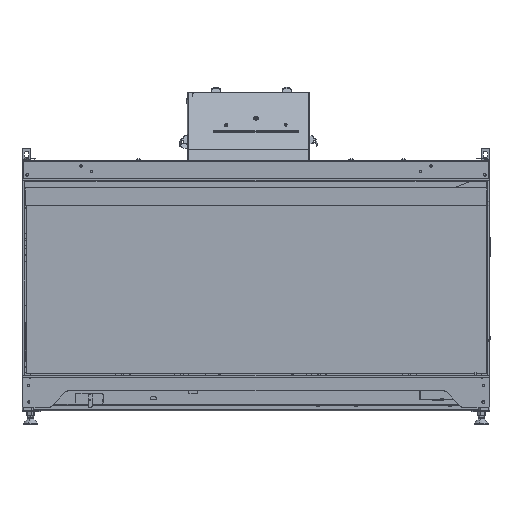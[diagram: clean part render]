
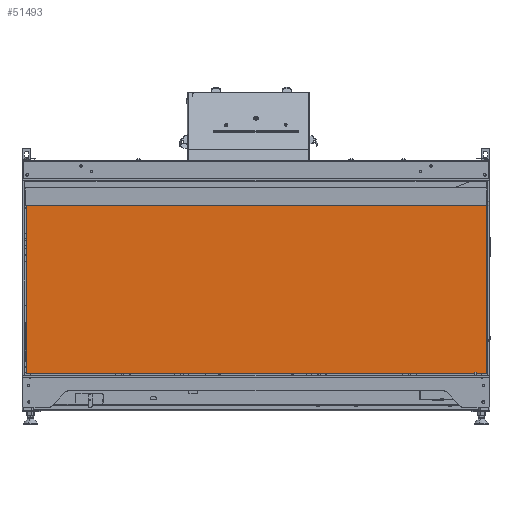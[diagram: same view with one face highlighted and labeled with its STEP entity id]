
A CAD part, top view. The second image highlights one B-rep face of the part: STEP entity #51493.
In plain terms, the highlighted planar face has unit normal (0, 0, 1).
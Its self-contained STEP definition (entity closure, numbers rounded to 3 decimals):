
#875 = FACE_OUTER_BOUND ( 'NONE', #4675, .T. ) ;
#1250 = LINE ( 'NONE', #37442, #45406 ) ;
#2161 = ORIENTED_EDGE ( 'NONE', *, *, #33126, .T. ) ;
#2695 = DIRECTION ( 'NONE',  ( 0., -1., 0. ) ) ;
#4675 = EDGE_LOOP ( 'NONE', ( #2161, #60852, #45241, #39831 ) ) ;
#8670 = DIRECTION ( 'NONE',  ( 0., -1., 0. ) ) ;
#9136 = VERTEX_POINT ( 'NONE', #13150 ) ;
#10221 = CARTESIAN_POINT ( 'NONE',  ( 128.813, 523.239, 1815.195 ) ) ;
#10913 = VERTEX_POINT ( 'NONE', #15274 ) ;
#12344 = CARTESIAN_POINT ( 'NONE',  ( 625.813, 523.239, 1815.195 ) ) ;
#13150 = CARTESIAN_POINT ( 'NONE',  ( 625.813, 1401.239, 1815.195 ) ) ;
#13325 = CARTESIAN_POINT ( 'NONE',  ( -368.187, 523.239, 1815.195 ) ) ;
#14159 = EDGE_CURVE ( 'NONE', #9136, #10913, #54155, .T. ) ;
#15274 = CARTESIAN_POINT ( 'NONE',  ( 625.813, 1031.239, 1815.195 ) ) ;
#16500 = DIRECTION ( 'NONE',  ( 1., 0., 0. ) ) ;
#17185 = DIRECTION ( 'NONE',  ( -1., 0., 0. ) ) ;
#17639 = VECTOR ( 'NONE', #48622, 1000. ) ;
#23057 = CARTESIAN_POINT ( 'NONE',  ( 128.813, 1031.239, 1815.195 ) ) ;
#33126 = EDGE_CURVE ( 'NONE', #40644, #53616, #63474, .T. ) ;
#36323 = AXIS2_PLACEMENT_3D ( 'NONE', #10221, #56359, #16500 ) ;
#37442 = CARTESIAN_POINT ( 'NONE',  ( 128.813, 1401.239, 1815.195 ) ) ;
#39831 = ORIENTED_EDGE ( 'NONE', *, *, #57519, .T. ) ;
#40644 = VERTEX_POINT ( 'NONE', #59775 ) ;
#40785 = VECTOR ( 'NONE', #8670, 1000. ) ;
#41381 = PLANE ( 'NONE',  #36323 ) ;
#45241 = ORIENTED_EDGE ( 'NONE', *, *, #14159, .F. ) ;
#45406 = VECTOR ( 'NONE', #17185, 1000. ) ;
#48622 = DIRECTION ( 'NONE',  ( 1., 0., 0. ) ) ;
#49812 = VECTOR ( 'NONE', #2695, 1000. ) ;
#51493 = ADVANCED_FACE ( 'NONE', ( #875 ), #41381, .T. ) ;
#53616 = VERTEX_POINT ( 'NONE', #62770 ) ;
#54155 = LINE ( 'NONE', #12344, #49812 ) ;
#56029 = EDGE_CURVE ( 'NONE', #53616, #10913, #59268, .T. ) ;
#56359 = DIRECTION ( 'NONE',  ( 0., 0., 1. ) ) ;
#57519 = EDGE_CURVE ( 'NONE', #9136, #40644, #1250, .T. ) ;
#59268 = LINE ( 'NONE', #23057, #17639 ) ;
#59775 = CARTESIAN_POINT ( 'NONE',  ( -368.187, 1401.239, 1815.195 ) ) ;
#60852 = ORIENTED_EDGE ( 'NONE', *, *, #56029, .T. ) ;
#62770 = CARTESIAN_POINT ( 'NONE',  ( -368.187, 1031.239, 1815.195 ) ) ;
#63474 = LINE ( 'NONE', #13325, #40785 ) ;
